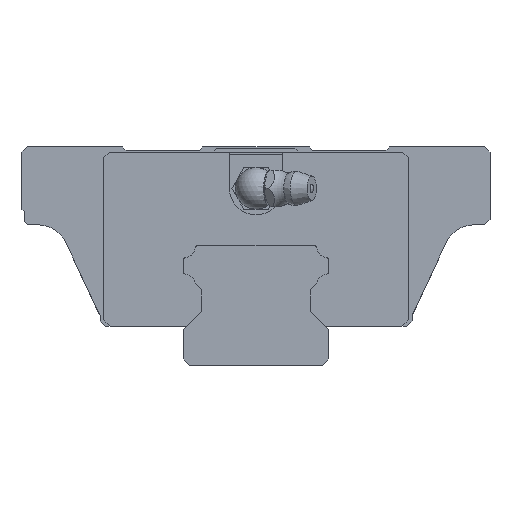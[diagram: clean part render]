
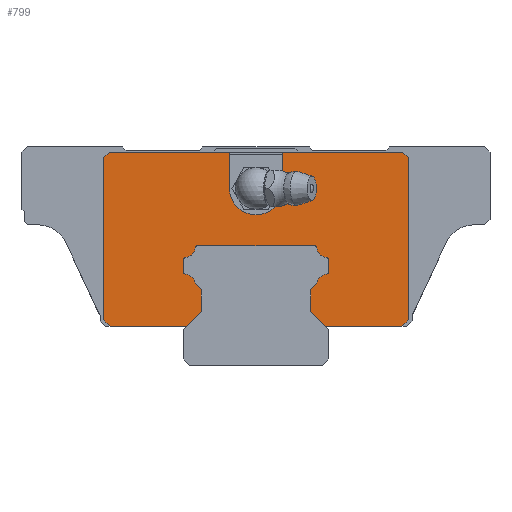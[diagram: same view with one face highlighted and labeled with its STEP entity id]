
A CAD part, front view. The second image highlights one B-rep face of the part: STEP entity #799.
In plain terms, the highlighted planar face has unit normal (0, -1, 0).
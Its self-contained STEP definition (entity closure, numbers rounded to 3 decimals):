
#582=CIRCLE('',#4378,2.);
#584=CIRCLE('',#4381,0.5);
#586=CIRCLE('',#4385,0.5);
#588=CIRCLE('',#4388,2.);
#590=CIRCLE('',#4391,0.5);
#592=CIRCLE('',#4395,0.5);
#594=CIRCLE('',#4398,2.);
#596=CIRCLE('',#4401,0.5);
#598=CIRCLE('',#4404,0.5);
#600=CIRCLE('',#4407,2.);
#615=CIRCLE('',#4459,5.1);
#799=ADVANCED_FACE('',(#1139),#984,.F.);
#984=PLANE('',#4460);
#1139=FACE_OUTER_BOUND('',#1356,.T.);
#1356=EDGE_LOOP('',(#2093,#2094,#2095,#2096,#2097,#2098,#2099,#2100,#2101,
#2102,#2103,#2104,#2105,#2106,#2107,#2108,#2109,#2110,#2111,#2112,#2113,
#2114,#2115,#2116,#2117,#2118,#2119,#2120,#2121,#2122,#2123,#2124));
#2093=ORIENTED_EDGE('',*,*,#3197,.F.);
#2094=ORIENTED_EDGE('',*,*,#3281,.T.);
#2095=ORIENTED_EDGE('',*,*,#3311,.T.);
#2096=ORIENTED_EDGE('',*,*,#3313,.T.);
#2097=ORIENTED_EDGE('',*,*,#3304,.T.);
#2098=ORIENTED_EDGE('',*,*,#3300,.T.);
#2099=ORIENTED_EDGE('',*,*,#3331,.F.);
#2100=ORIENTED_EDGE('',*,*,#3332,.F.);
#2101=ORIENTED_EDGE('',*,*,#3333,.F.);
#2102=ORIENTED_EDGE('',*,*,#3296,.T.);
#2103=ORIENTED_EDGE('',*,*,#3307,.T.);
#2104=ORIENTED_EDGE('',*,*,#3309,.T.);
#2105=ORIENTED_EDGE('',*,*,#3302,.T.);
#2106=ORIENTED_EDGE('',*,*,#3275,.T.);
#2107=ORIENTED_EDGE('',*,*,#3269,.F.);
#2108=ORIENTED_EDGE('',*,*,#3266,.F.);
#2109=ORIENTED_EDGE('',*,*,#3263,.F.);
#2110=ORIENTED_EDGE('',*,*,#3260,.F.);
#2111=ORIENTED_EDGE('',*,*,#3255,.F.);
#2112=ORIENTED_EDGE('',*,*,#3271,.F.);
#2113=ORIENTED_EDGE('',*,*,#3248,.F.);
#2114=ORIENTED_EDGE('',*,*,#3243,.F.);
#2115=ORIENTED_EDGE('',*,*,#3237,.F.);
#2116=ORIENTED_EDGE('',*,*,#3234,.F.);
#2117=ORIENTED_EDGE('',*,*,#3231,.F.);
#2118=ORIENTED_EDGE('',*,*,#3228,.F.);
#2119=ORIENTED_EDGE('',*,*,#3223,.F.);
#2120=ORIENTED_EDGE('',*,*,#3217,.F.);
#2121=ORIENTED_EDGE('',*,*,#3214,.F.);
#2122=ORIENTED_EDGE('',*,*,#3209,.F.);
#2123=ORIENTED_EDGE('',*,*,#3203,.F.);
#2124=ORIENTED_EDGE('',*,*,#3200,.F.);
#2748=VERTEX_POINT('',#6131);
#2750=VERTEX_POINT('',#6135);
#2752=VERTEX_POINT('',#6140);
#2754=VERTEX_POINT('',#6146);
#2760=VERTEX_POINT('',#6173);
#2763=VERTEX_POINT('',#6186);
#2765=VERTEX_POINT('',#6192);
#2771=VERTEX_POINT('',#6219);
#2774=VERTEX_POINT('',#6232);
#2776=VERTEX_POINT('',#6238);
#2778=VERTEX_POINT('',#6244);
#2780=VERTEX_POINT('',#6250);
#2786=VERTEX_POINT('',#6277);
#2789=VERTEX_POINT('',#6290);
#2796=VERTEX_POINT('',#6318);
#2797=VERTEX_POINT('',#6320);
#2800=VERTEX_POINT('',#6333);
#2802=VERTEX_POINT('',#6339);
#2804=VERTEX_POINT('',#6345);
#2806=VERTEX_POINT('',#6351);
#2809=VERTEX_POINT('',#6364);
#2812=VERTEX_POINT('',#6373);
#2823=VERTEX_POINT('',#6405);
#2824=VERTEX_POINT('',#6407);
#2827=VERTEX_POINT('',#6413);
#2828=VERTEX_POINT('',#6415);
#2829=VERTEX_POINT('',#6419);
#2830=VERTEX_POINT('',#6423);
#2831=VERTEX_POINT('',#6427);
#2833=VERTEX_POINT('',#6435);
#2849=VERTEX_POINT('',#6492);
#2850=VERTEX_POINT('',#6494);
#3197=EDGE_CURVE('',#2750,#2748,#3706,.T.);
#3200=EDGE_CURVE('',#2748,#2752,#3709,.T.);
#3203=EDGE_CURVE('',#2752,#2754,#3712,.T.);
#3209=EDGE_CURVE('',#2754,#2760,#582,.T.);
#3214=EDGE_CURVE('',#2760,#2763,#584,.T.);
#3217=EDGE_CURVE('',#2763,#2765,#3716,.T.);
#3223=EDGE_CURVE('',#2765,#2771,#586,.T.);
#3228=EDGE_CURVE('',#2771,#2774,#588,.T.);
#3231=EDGE_CURVE('',#2774,#2776,#590,.T.);
#3234=EDGE_CURVE('',#2776,#2778,#3721,.T.);
#3237=EDGE_CURVE('',#2778,#2780,#592,.T.);
#3243=EDGE_CURVE('',#2780,#2786,#594,.T.);
#3248=EDGE_CURVE('',#2786,#2789,#596,.T.);
#3255=EDGE_CURVE('',#2796,#2797,#598,.T.);
#3260=EDGE_CURVE('',#2797,#2800,#600,.T.);
#3263=EDGE_CURVE('',#2800,#2802,#3728,.T.);
#3266=EDGE_CURVE('',#2802,#2804,#3731,.T.);
#3269=EDGE_CURVE('',#2804,#2806,#3734,.T.);
#3271=EDGE_CURVE('',#2789,#2796,#3736,.T.);
#3275=EDGE_CURVE('',#2809,#2806,#3740,.T.);
#3281=EDGE_CURVE('',#2750,#2812,#3746,.T.);
#3296=EDGE_CURVE('',#2824,#2823,#3761,.T.);
#3300=EDGE_CURVE('',#2828,#2827,#3765,.T.);
#3302=EDGE_CURVE('',#2829,#2809,#3767,.T.);
#3304=EDGE_CURVE('',#2830,#2828,#3769,.T.);
#3307=EDGE_CURVE('',#2823,#2831,#3772,.T.);
#3309=EDGE_CURVE('',#2831,#2829,#3773,.T.);
#3311=EDGE_CURVE('',#2812,#2833,#3775,.T.);
#3313=EDGE_CURVE('',#2833,#2830,#3776,.T.);
#3331=EDGE_CURVE('',#2849,#2827,#3782,.T.);
#3332=EDGE_CURVE('',#2850,#2849,#615,.T.);
#3333=EDGE_CURVE('',#2824,#2850,#3783,.T.);
#3706=LINE('',#6136,#4062);
#3709=LINE('',#6142,#4065);
#3712=LINE('',#6148,#4068);
#3716=LINE('',#6194,#4072);
#3721=LINE('',#6246,#4077);
#3728=LINE('',#6341,#4084);
#3731=LINE('',#6347,#4087);
#3734=LINE('',#6353,#4090);
#3736=LINE('',#6356,#4092);
#3740=LINE('',#6363,#4096);
#3746=LINE('',#6374,#4102);
#3761=LINE('',#6406,#4117);
#3765=LINE('',#6414,#4121);
#3767=LINE('',#6418,#4123);
#3769=LINE('',#6422,#4125);
#3772=LINE('',#6428,#4128);
#3773=LINE('',#6432,#4129);
#3775=LINE('',#6436,#4131);
#3776=LINE('',#6440,#4132);
#3782=LINE('',#6491,#4138);
#3783=LINE('',#6495,#4139);
#4062=VECTOR('',#5002,1.);
#4065=VECTOR('',#5007,1.);
#4068=VECTOR('',#5012,1.);
#4072=VECTOR('',#5030,1.);
#4077=VECTOR('',#5055,1.);
#4084=VECTOR('',#5094,1.);
#4087=VECTOR('',#5099,1.);
#4090=VECTOR('',#5104,1.);
#4092=VECTOR('',#5108,1.);
#4096=VECTOR('',#5114,1.);
#4102=VECTOR('',#5122,1.);
#4117=VECTOR('',#5149,1.);
#4121=VECTOR('',#5153,1.);
#4123=VECTOR('',#5157,1.);
#4125=VECTOR('',#5161,1.);
#4128=VECTOR('',#5166,1.);
#4129=VECTOR('',#5171,1.);
#4131=VECTOR('',#5175,1.);
#4132=VECTOR('',#5180,1.);
#4138=VECTOR('',#5248,1.);
#4139=VECTOR('',#5251,1.);
#4378=AXIS2_PLACEMENT_3D('',#6172,#5017,#5018);
#4381=AXIS2_PLACEMENT_3D('',#6188,#5024,#5025);
#4385=AXIS2_PLACEMENT_3D('',#6218,#5035,#5036);
#4388=AXIS2_PLACEMENT_3D('',#6234,#5042,#5043);
#4391=AXIS2_PLACEMENT_3D('',#6240,#5049,#5050);
#4395=AXIS2_PLACEMENT_3D('',#6252,#5061,#5062);
#4398=AXIS2_PLACEMENT_3D('',#6276,#5067,#5068);
#4401=AXIS2_PLACEMENT_3D('',#6292,#5074,#5075);
#4404=AXIS2_PLACEMENT_3D('',#6319,#5081,#5082);
#4407=AXIS2_PLACEMENT_3D('',#6335,#5088,#5089);
#4459=AXIS2_PLACEMENT_3D('',#6493,#5249,#5250);
#4460=AXIS2_PLACEMENT_3D('',#6496,#5252,#5253);
#5002=DIRECTION('',(-0.707,0.,0.707));
#5007=DIRECTION('',(0.,0.,1.));
#5012=DIRECTION('',(0.707,0.,0.707));
#5017=DIRECTION('',(0.,1.,0.));
#5018=DIRECTION('',(0.,0.,1.));
#5024=DIRECTION('',(0.,-1.,0.));
#5025=DIRECTION('',(0.,0.,1.));
#5030=DIRECTION('',(0.,0.,1.));
#5035=DIRECTION('',(0.,-1.,0.));
#5036=DIRECTION('',(0.,0.,1.));
#5042=DIRECTION('',(0.,1.,0.));
#5043=DIRECTION('',(0.,0.,1.));
#5049=DIRECTION('',(0.,-1.,0.));
#5050=DIRECTION('',(0.,0.,1.));
#5055=DIRECTION('',(-1.,0.,0.));
#5061=DIRECTION('',(0.,-1.,0.));
#5062=DIRECTION('',(0.,0.,1.));
#5067=DIRECTION('',(0.,1.,0.));
#5068=DIRECTION('',(0.,0.,1.));
#5074=DIRECTION('',(0.,-1.,0.));
#5075=DIRECTION('',(0.,0.,1.));
#5081=DIRECTION('',(0.,-1.,0.));
#5082=DIRECTION('',(0.,0.,1.));
#5088=DIRECTION('',(0.,1.,0.));
#5089=DIRECTION('',(0.,0.,1.));
#5094=DIRECTION('',(0.707,0.,-0.707));
#5099=DIRECTION('',(0.,0.,-1.));
#5104=DIRECTION('',(-0.707,0.,-0.707));
#5108=DIRECTION('',(0.,0.,-1.));
#5114=DIRECTION('',(1.,0.,0.));
#5122=DIRECTION('',(1.,0.,0.));
#5149=DIRECTION('',(-1.,0.,0.));
#5153=DIRECTION('',(-1.,0.,0.));
#5157=DIRECTION('',(0.707,0.,-0.707));
#5161=DIRECTION('',(-0.707,0.,0.707));
#5166=DIRECTION('',(-0.707,0.,-0.707));
#5171=DIRECTION('',(0.,0.,-1.));
#5175=DIRECTION('',(0.707,0.,0.707));
#5180=DIRECTION('',(0.,0.,1.));
#5248=DIRECTION('',(0.,0.,1.));
#5249=DIRECTION('',(0.,-1.,0.));
#5250=DIRECTION('',(-1.,0.,0.));
#5251=DIRECTION('',(0.,0.,-1.));
#5252=DIRECTION('',(0.,1.,0.));
#5253=DIRECTION('',(0.,0.,1.));
#6131=CARTESIAN_POINT('',(10.5,-26.3,10.3));
#6135=CARTESIAN_POINT('',(13.3,-26.3,7.5));
#6136=CARTESIAN_POINT('',(20.675,-26.3,0.125));
#6140=CARTESIAN_POINT('',(10.5,-26.3,14.502));
#6142=CARTESIAN_POINT('',(10.5,-26.3,24.35));
#6146=CARTESIAN_POINT('',(11.701,-26.3,15.703));
#6148=CARTESIAN_POINT('',(32.624,-26.3,36.626));
#6172=CARTESIAN_POINT('',(13.691,-26.3,15.502));
#6173=CARTESIAN_POINT('',(13.536,-26.3,17.496));
#6186=CARTESIAN_POINT('',(14.,-26.3,17.995));
#6188=CARTESIAN_POINT('',(13.5,-26.3,17.995));
#6192=CARTESIAN_POINT('',(14.,-26.3,20.226));
#6194=CARTESIAN_POINT('',(14.,-26.3,24.35));
#6218=CARTESIAN_POINT('',(13.5,-26.3,20.226));
#6219=CARTESIAN_POINT('',(13.536,-26.3,20.725));
#6232=CARTESIAN_POINT('',(11.699,-26.3,22.544));
#6234=CARTESIAN_POINT('',(13.691,-26.3,22.719));
#6238=CARTESIAN_POINT('',(11.201,-26.3,23.));
#6240=CARTESIAN_POINT('',(11.201,-26.3,22.5));
#6244=CARTESIAN_POINT('',(-11.201,-26.3,23.));
#6246=CARTESIAN_POINT('',(44.9,-26.3,23.));
#6250=CARTESIAN_POINT('',(-11.699,-26.3,22.544));
#6252=CARTESIAN_POINT('',(-11.201,-26.3,22.5));
#6276=CARTESIAN_POINT('',(-13.691,-26.3,22.719));
#6277=CARTESIAN_POINT('',(-13.536,-26.3,20.725));
#6290=CARTESIAN_POINT('',(-14.,-26.3,20.226));
#6292=CARTESIAN_POINT('',(-13.5,-26.3,20.226));
#6318=CARTESIAN_POINT('',(-14.,-26.3,17.995));
#6319=CARTESIAN_POINT('',(-13.5,-26.3,17.995));
#6320=CARTESIAN_POINT('',(-13.536,-26.3,17.496));
#6333=CARTESIAN_POINT('',(-11.701,-26.3,15.703));
#6335=CARTESIAN_POINT('',(-13.691,-26.3,15.502));
#6339=CARTESIAN_POINT('',(-10.5,-26.3,14.502));
#6341=CARTESIAN_POINT('',(12.276,-26.3,-8.274));
#6345=CARTESIAN_POINT('',(-10.5,-26.3,10.3));
#6347=CARTESIAN_POINT('',(-10.5,-26.3,24.35));
#6351=CARTESIAN_POINT('',(-13.3,-26.3,7.5));
#6353=CARTESIAN_POINT('',(24.225,-26.3,45.025));
#6356=CARTESIAN_POINT('',(-14.,-26.3,24.35));
#6363=CARTESIAN_POINT('',(-28.05,-26.3,7.5));
#6364=CARTESIAN_POINT('',(-28.05,-26.3,7.5));
#6373=CARTESIAN_POINT('',(28.05,-26.3,7.5));
#6374=CARTESIAN_POINT('',(-28.05,-26.3,7.5));
#6405=CARTESIAN_POINT('',(-28.25,-26.3,41.));
#6406=CARTESIAN_POINT('',(28.25,-26.3,41.));
#6407=CARTESIAN_POINT('',(-5.1,-26.3,41.));
#6413=CARTESIAN_POINT('',(5.1,-26.3,41.));
#6414=CARTESIAN_POINT('',(28.25,-26.3,41.));
#6415=CARTESIAN_POINT('',(28.25,-26.3,41.));
#6418=CARTESIAN_POINT('',(-29.25,-26.3,8.7));
#6419=CARTESIAN_POINT('',(-29.25,-26.3,8.7));
#6422=CARTESIAN_POINT('',(29.25,-26.3,40.));
#6423=CARTESIAN_POINT('',(29.25,-26.3,40.));
#6427=CARTESIAN_POINT('',(-29.25,-26.3,40.));
#6428=CARTESIAN_POINT('',(-28.25,-26.3,41.));
#6432=CARTESIAN_POINT('',(-29.25,-26.3,40.));
#6435=CARTESIAN_POINT('',(29.25,-26.3,8.7));
#6436=CARTESIAN_POINT('',(28.05,-26.3,7.5));
#6440=CARTESIAN_POINT('',(29.25,-26.3,8.7));
#6491=CARTESIAN_POINT('',(5.1,-26.3,34.));
#6492=CARTESIAN_POINT('',(5.1,-26.3,34.));
#6493=CARTESIAN_POINT('',(0.,-26.3,34.));
#6494=CARTESIAN_POINT('',(-5.1,-26.3,34.));
#6495=CARTESIAN_POINT('',(-5.1,-26.3,41.));
#6496=CARTESIAN_POINT('',(44.9,-26.3,24.35));
